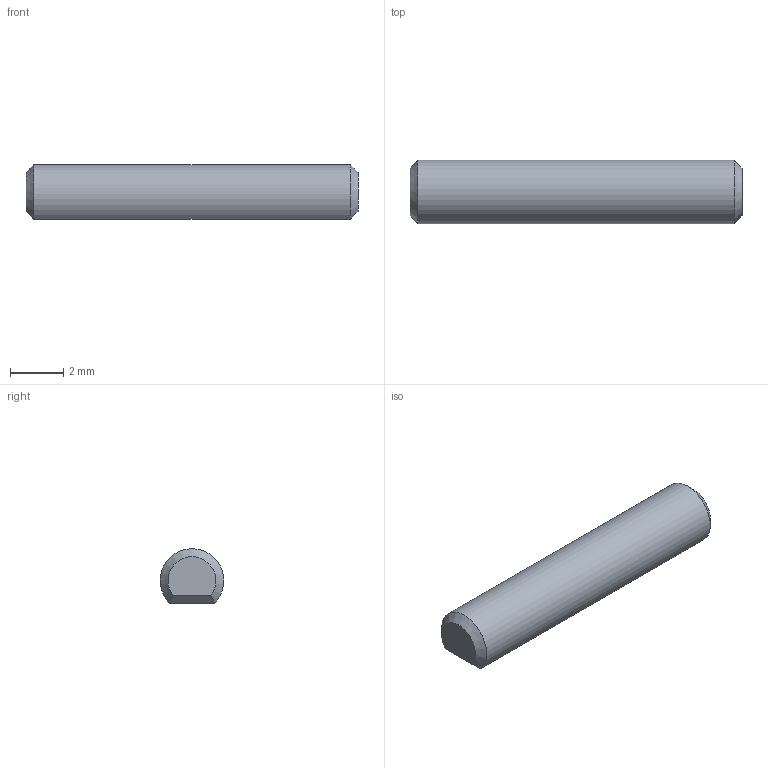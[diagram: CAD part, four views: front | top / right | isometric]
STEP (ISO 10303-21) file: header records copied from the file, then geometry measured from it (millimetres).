
FILE_DESCRIPTION(/* description */ ('STEP AP242','CAx-IF Rec.Pracs.---Representation and Presentation of Product Manufacturing Information (PMI)---4.0---2014-10-13','CAx-IF Rec.Pracs.---3D Tessellated Geometry---0.4---2014-09-14','2;1'),/* implementation_level */ '2;1');
FILE_NAME(/* name */ '61ff084a23e0087fa9c7d466',/* time_stamp */ '2022-02-05T23:29:14+00:00',/* author */ (''),/* organization */ (''),/* preprocessor_version */ 'ST-DEVELOPER v18.101',/* originating_system */ ' ',/* authorisation */ ' ');
FILE_SCHEMA (('AP242_MANAGED_MODEL_BASED_3D_ENGINEERING_MIM_LF { 1 0 10303 442 1 1 4 }'));
Length unit declared in the file: metre
Products named in the file (1): Pin
Bounding box: 12.5 x 2.39 x 2.04 mm (x, y, z)
Volume: 50.8 mm3; surface area: 97.3 mm2
Topology: 1 solids, 1 shells, 8 faces, 14 edges, 8 vertices
Faces by surface type: plane 5, cone 2, cylinder 1
Entity records: 216 total; most frequent: CARTESIAN_POINT 43, DIRECTION 32, ORIENTED_EDGE 28, EDGE_CURVE 14, AXIS2_PLACEMENT_3D 13, VERTEX_POINT 8, EDGE_LOOP 8, FACE_BOUND 8
